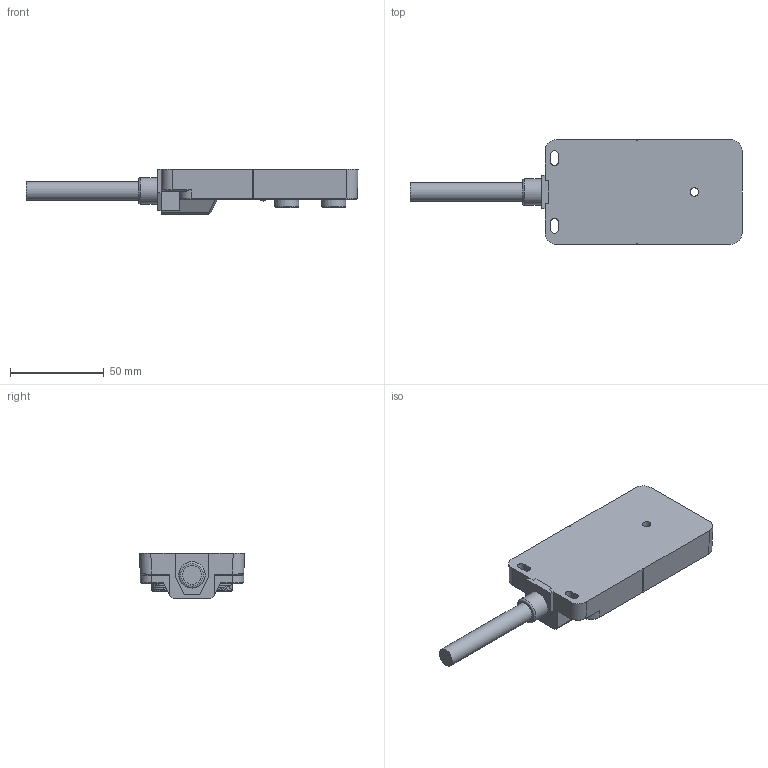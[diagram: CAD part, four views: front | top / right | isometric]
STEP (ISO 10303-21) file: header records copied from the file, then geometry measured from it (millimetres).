
FILE_DESCRIPTION(/* description */ (''),/* implementation_level */ '2;1');
FILE_NAME(/* name */ 'D4M12-5T-L.stp',/* time_stamp */ '2018-04-18T13:42:48+08:00',/* author */ (''),/* organization */ (''),/* preprocessor_version */ 'ST-DEVELOPER v16',/* originating_system */ 'SIEMENS PLM Software NX 10.0',/* authorisation */ '');
FILE_SCHEMA (('AP203_CONFIGURATION_CONTROLLED_3D_DESIGN_OF_MECHANICAL_PARTS_AND_ASSEMBLIES_MIM_LF { 1 0 10303 403 2 1 2}'));
Length unit declared in the file: millimetre
Products named in the file (1): 9147259C92A3cz3b
Bounding box: 176.92 x 55.84 x 24 mm (x, y, z)
Volume: 92851.6 mm3; surface area: 52799 mm2
Topology: 7 solids, 29 shells, 1108 faces, 3074 edges, 2025 vertices
Faces by surface type: plane 641, cylinder 283, cone 131, extrusion 23, torus 13, sphere 9, bspline 8
Full cylindrical faces by diameter (mm): 1 x20, 1.1 x20, 1.2 x20, 2 x40, 2.1 x40, 4.5 x1, 4.8 x1, 6.5 x1, 6.9 x1, 10 x2, 13 x4, 14 x1
Entity records: 39091 total; most frequent: CARTESIAN_POINT 11956, DIRECTION 5481, ORIENTED_EDGE 5338, EDGE_CURVE 2669, AXIS2_PLACEMENT_3D 1908, VERTEX_POINT 1892, VECTOR 1665, LINE 1642
